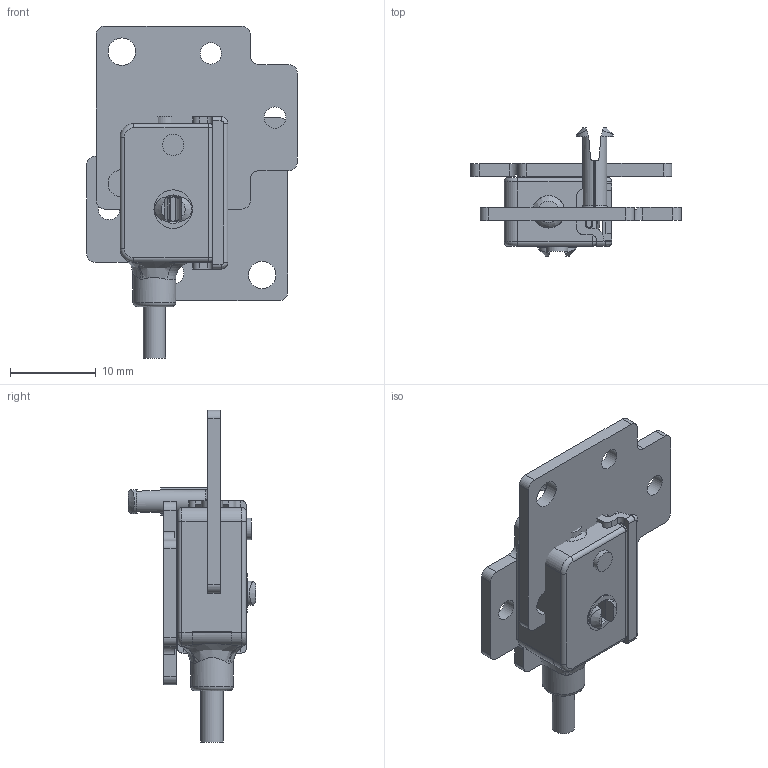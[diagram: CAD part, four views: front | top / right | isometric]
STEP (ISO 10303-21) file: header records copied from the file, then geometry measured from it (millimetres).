
FILE_DESCRIPTION( ( 'Unknown' ), '1' );
FILE_NAME( 'X:/SolidEdge/Models/Dokumentationen/Opto/FxxK 07/Vereinfachte Modelle/Neutralformate/FxDK 07 mit Filterhalter.stp', 'Unknown', ( 'Unknown' ), ( 'Unknown' ), 'PSStep 14.0', 'Unknown', ' ' );
FILE_SCHEMA( ( 'AUTOMOTIVE_DESIGN { 1 0 10303 214 1 1 1 1 }' ) );
Length unit declared in the file: millimetre
Products named in the file (3): Assem1; FxDK 07 mit Filterhalter; 11102447
Bounding box: 24.6 x 14.95 x 38.8 mm (x, y, z)
Volume: 4601.2 mm3; surface area: 5055.1 mm2
Topology: 4 solids, 4 shells, 578 faces, 1572 edges, 984 vertices
Faces by surface type: plane 330, cylinder 176, bspline 26, torus 24, sphere 14, cone 8
Full cylindrical faces by diameter (mm): 2.5 x12, 2.61 x2, 3 x2, 3.2 x4, 3.8 x2, 4.5 x4, 5 x2
Entity records: 10852 total; most frequent: CARTESIAN_POINT 2300, DIRECTION 1503, ORIENTED_EDGE 1496, EDGE_CURVE 748, AXIS2_PLACEMENT_3D 517, VERTEX_POINT 479, LINE 469, VECTOR 469
